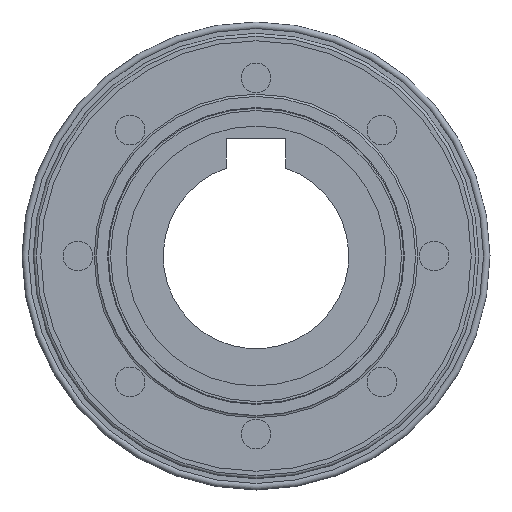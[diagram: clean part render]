
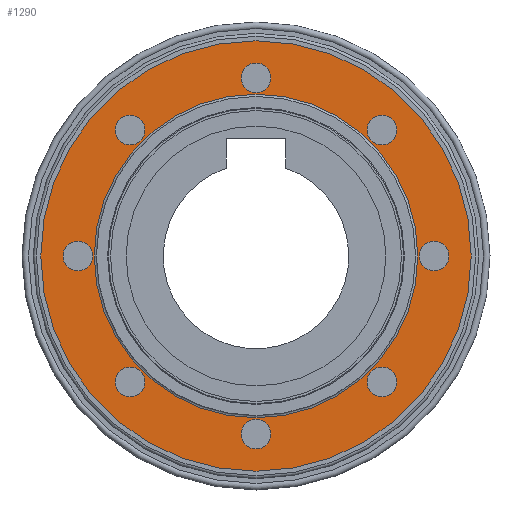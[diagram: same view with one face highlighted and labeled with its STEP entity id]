
A CAD part, left-side view. The second image highlights one B-rep face of the part: STEP entity #1290.
In plain terms, the highlighted planar face has unit normal (-1, 0, 0).
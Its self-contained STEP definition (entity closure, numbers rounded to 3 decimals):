
#24=FACE_BOUND('',#370,.T.);
#25=FACE_BOUND('',#371,.T.);
#26=FACE_BOUND('',#372,.T.);
#27=FACE_BOUND('',#373,.T.);
#28=FACE_BOUND('',#374,.T.);
#29=FACE_BOUND('',#375,.T.);
#30=FACE_BOUND('',#376,.T.);
#31=FACE_BOUND('',#377,.T.);
#32=FACE_BOUND('',#378,.T.);
#61=PLANE('',#1502);
#287=FACE_OUTER_BOUND('',#369,.T.);
#369=EDGE_LOOP('',(#1111,#1112));
#370=EDGE_LOOP('',(#1113,#1114));
#371=EDGE_LOOP('',(#1115,#1116));
#372=EDGE_LOOP('',(#1117,#1118));
#373=EDGE_LOOP('',(#1119,#1120));
#374=EDGE_LOOP('',(#1121,#1122));
#375=EDGE_LOOP('',(#1123,#1124));
#376=EDGE_LOOP('',(#1125,#1126));
#377=EDGE_LOOP('',(#1127,#1128));
#378=EDGE_LOOP('',(#1129,#1130));
#426=CIRCLE('',#1356,2.);
#429=CIRCLE('',#1359,2.);
#430=CIRCLE('',#1361,2.);
#433=CIRCLE('',#1364,2.);
#434=CIRCLE('',#1366,2.);
#437=CIRCLE('',#1369,2.);
#438=CIRCLE('',#1371,2.);
#441=CIRCLE('',#1374,2.);
#442=CIRCLE('',#1376,2.);
#445=CIRCLE('',#1379,2.);
#446=CIRCLE('',#1381,2.);
#449=CIRCLE('',#1384,2.);
#450=CIRCLE('',#1386,2.);
#453=CIRCLE('',#1389,2.);
#454=CIRCLE('',#1391,2.);
#457=CIRCLE('',#1394,2.);
#492=CIRCLE('',#1439,21.8);
#493=CIRCLE('',#1440,21.8);
#495=CIRCLE('',#1443,29.);
#496=CIRCLE('',#1444,29.);
#549=VERTEX_POINT('',#2025);
#550=VERTEX_POINT('',#2026);
#553=VERTEX_POINT('',#2035);
#554=VERTEX_POINT('',#2036);
#557=VERTEX_POINT('',#2045);
#558=VERTEX_POINT('',#2046);
#561=VERTEX_POINT('',#2055);
#562=VERTEX_POINT('',#2056);
#565=VERTEX_POINT('',#2065);
#566=VERTEX_POINT('',#2066);
#569=VERTEX_POINT('',#2075);
#570=VERTEX_POINT('',#2076);
#573=VERTEX_POINT('',#2085);
#574=VERTEX_POINT('',#2086);
#577=VERTEX_POINT('',#2095);
#578=VERTEX_POINT('',#2096);
#615=VERTEX_POINT('',#2229);
#616=VERTEX_POINT('',#2231);
#619=VERTEX_POINT('',#2238);
#620=VERTEX_POINT('',#2240);
#695=EDGE_CURVE('',#549,#550,#426,.T.);
#699=EDGE_CURVE('',#550,#549,#429,.T.);
#700=EDGE_CURVE('',#553,#554,#430,.T.);
#704=EDGE_CURVE('',#554,#553,#433,.T.);
#705=EDGE_CURVE('',#557,#558,#434,.T.);
#709=EDGE_CURVE('',#558,#557,#437,.T.);
#710=EDGE_CURVE('',#561,#562,#438,.T.);
#714=EDGE_CURVE('',#562,#561,#441,.T.);
#715=EDGE_CURVE('',#565,#566,#442,.T.);
#719=EDGE_CURVE('',#566,#565,#445,.T.);
#720=EDGE_CURVE('',#569,#570,#446,.T.);
#724=EDGE_CURVE('',#570,#569,#449,.T.);
#725=EDGE_CURVE('',#573,#574,#450,.T.);
#729=EDGE_CURVE('',#574,#573,#453,.T.);
#730=EDGE_CURVE('',#577,#578,#454,.T.);
#734=EDGE_CURVE('',#578,#577,#457,.T.);
#779=EDGE_CURVE('',#615,#616,#492,.T.);
#780=EDGE_CURVE('',#616,#615,#493,.T.);
#783=EDGE_CURVE('',#620,#619,#495,.T.);
#784=EDGE_CURVE('',#619,#620,#496,.T.);
#1111=ORIENTED_EDGE('',*,*,#783,.T.);
#1112=ORIENTED_EDGE('',*,*,#784,.T.);
#1113=ORIENTED_EDGE('',*,*,#695,.F.);
#1114=ORIENTED_EDGE('',*,*,#699,.F.);
#1115=ORIENTED_EDGE('',*,*,#700,.F.);
#1116=ORIENTED_EDGE('',*,*,#704,.F.);
#1117=ORIENTED_EDGE('',*,*,#705,.F.);
#1118=ORIENTED_EDGE('',*,*,#709,.F.);
#1119=ORIENTED_EDGE('',*,*,#710,.F.);
#1120=ORIENTED_EDGE('',*,*,#714,.F.);
#1121=ORIENTED_EDGE('',*,*,#715,.F.);
#1122=ORIENTED_EDGE('',*,*,#719,.F.);
#1123=ORIENTED_EDGE('',*,*,#720,.F.);
#1124=ORIENTED_EDGE('',*,*,#724,.F.);
#1125=ORIENTED_EDGE('',*,*,#725,.F.);
#1126=ORIENTED_EDGE('',*,*,#729,.F.);
#1127=ORIENTED_EDGE('',*,*,#730,.F.);
#1128=ORIENTED_EDGE('',*,*,#734,.F.);
#1129=ORIENTED_EDGE('',*,*,#780,.F.);
#1130=ORIENTED_EDGE('',*,*,#779,.F.);
#1290=ADVANCED_FACE('',(#287,#24,#25,#26,#27,#28,#29,#30,#31,#32),#61,.F.);
#1356=AXIS2_PLACEMENT_3D('',#2027,#1578,#1579);
#1359=AXIS2_PLACEMENT_3D('',#2033,#1585,#1586);
#1361=AXIS2_PLACEMENT_3D('',#2037,#1589,#1590);
#1364=AXIS2_PLACEMENT_3D('',#2043,#1596,#1597);
#1366=AXIS2_PLACEMENT_3D('',#2047,#1600,#1601);
#1369=AXIS2_PLACEMENT_3D('',#2053,#1607,#1608);
#1371=AXIS2_PLACEMENT_3D('',#2057,#1611,#1612);
#1374=AXIS2_PLACEMENT_3D('',#2063,#1618,#1619);
#1376=AXIS2_PLACEMENT_3D('',#2067,#1622,#1623);
#1379=AXIS2_PLACEMENT_3D('',#2073,#1629,#1630);
#1381=AXIS2_PLACEMENT_3D('',#2077,#1633,#1634);
#1384=AXIS2_PLACEMENT_3D('',#2083,#1640,#1641);
#1386=AXIS2_PLACEMENT_3D('',#2087,#1644,#1645);
#1389=AXIS2_PLACEMENT_3D('',#2093,#1651,#1652);
#1391=AXIS2_PLACEMENT_3D('',#2097,#1655,#1656);
#1394=AXIS2_PLACEMENT_3D('',#2103,#1662,#1663);
#1439=AXIS2_PLACEMENT_3D('',#2232,#1760,#1761);
#1440=AXIS2_PLACEMENT_3D('',#2233,#1762,#1763);
#1443=AXIS2_PLACEMENT_3D('',#2241,#1769,#1770);
#1444=AXIS2_PLACEMENT_3D('',#2242,#1771,#1772);
#1502=AXIS2_PLACEMENT_3D('',#2394,#1902,#1903);
#1578=DIRECTION('center_axis',(-1.,0.,0.));
#1579=DIRECTION('ref_axis',(0.,1.,0.));
#1585=DIRECTION('center_axis',(-1.,0.,0.));
#1586=DIRECTION('ref_axis',(0.,1.,0.));
#1589=DIRECTION('center_axis',(-1.,0.,0.));
#1590=DIRECTION('ref_axis',(0.,1.,0.));
#1596=DIRECTION('center_axis',(-1.,0.,0.));
#1597=DIRECTION('ref_axis',(0.,1.,0.));
#1600=DIRECTION('center_axis',(-1.,0.,0.));
#1601=DIRECTION('ref_axis',(0.,1.,0.));
#1607=DIRECTION('center_axis',(-1.,0.,0.));
#1608=DIRECTION('ref_axis',(0.,1.,0.));
#1611=DIRECTION('center_axis',(-1.,0.,0.));
#1612=DIRECTION('ref_axis',(0.,1.,0.));
#1618=DIRECTION('center_axis',(-1.,0.,0.));
#1619=DIRECTION('ref_axis',(0.,1.,0.));
#1622=DIRECTION('center_axis',(-1.,0.,0.));
#1623=DIRECTION('ref_axis',(0.,1.,0.));
#1629=DIRECTION('center_axis',(-1.,0.,0.));
#1630=DIRECTION('ref_axis',(0.,1.,0.));
#1633=DIRECTION('center_axis',(-1.,0.,0.));
#1634=DIRECTION('ref_axis',(0.,1.,0.));
#1640=DIRECTION('center_axis',(-1.,0.,0.));
#1641=DIRECTION('ref_axis',(0.,1.,0.));
#1644=DIRECTION('center_axis',(-1.,0.,0.));
#1645=DIRECTION('ref_axis',(0.,1.,0.));
#1651=DIRECTION('center_axis',(-1.,0.,0.));
#1652=DIRECTION('ref_axis',(0.,1.,0.));
#1655=DIRECTION('center_axis',(-1.,0.,0.));
#1656=DIRECTION('ref_axis',(0.,1.,0.));
#1662=DIRECTION('center_axis',(-1.,0.,0.));
#1663=DIRECTION('ref_axis',(0.,1.,0.));
#1760=DIRECTION('center_axis',(-1.,0.,0.));
#1761=DIRECTION('ref_axis',(0.,1.,0.));
#1762=DIRECTION('center_axis',(-1.,0.,0.));
#1763=DIRECTION('ref_axis',(0.,1.,0.));
#1769=DIRECTION('center_axis',(-1.,0.,0.));
#1770=DIRECTION('ref_axis',(0.,1.,0.));
#1771=DIRECTION('center_axis',(-1.,0.,0.));
#1772=DIRECTION('ref_axis',(0.,1.,0.));
#1902=DIRECTION('center_axis',(1.,0.,0.));
#1903=DIRECTION('ref_axis',(0.,0.,-1.));
#2025=CARTESIAN_POINT('',(6.,-14.971,-16.971));
#2026=CARTESIAN_POINT('',(6.,-18.971,-16.971));
#2027=CARTESIAN_POINT('Origin',(6.,-16.971,-16.971));
#2033=CARTESIAN_POINT('Origin',(6.,-16.971,-16.971));
#2035=CARTESIAN_POINT('',(6.,-22.,0.));
#2036=CARTESIAN_POINT('',(6.,-26.,0.));
#2037=CARTESIAN_POINT('Origin',(6.,-24.,0.));
#2043=CARTESIAN_POINT('Origin',(6.,-24.,0.));
#2045=CARTESIAN_POINT('',(6.,-14.971,16.971));
#2046=CARTESIAN_POINT('',(6.,-18.971,16.971));
#2047=CARTESIAN_POINT('Origin',(6.,-16.971,16.971));
#2053=CARTESIAN_POINT('Origin',(6.,-16.971,16.971));
#2055=CARTESIAN_POINT('',(6.,2.,24.));
#2056=CARTESIAN_POINT('',(6.,-2.,24.));
#2057=CARTESIAN_POINT('Origin',(6.,0.,24.));
#2063=CARTESIAN_POINT('Origin',(6.,0.,24.));
#2065=CARTESIAN_POINT('',(6.,18.971,16.971));
#2066=CARTESIAN_POINT('',(6.,14.971,16.971));
#2067=CARTESIAN_POINT('Origin',(6.,16.971,16.971));
#2073=CARTESIAN_POINT('Origin',(6.,16.971,16.971));
#2075=CARTESIAN_POINT('',(6.,26.,0.));
#2076=CARTESIAN_POINT('',(6.,22.,0.));
#2077=CARTESIAN_POINT('Origin',(6.,24.,0.));
#2083=CARTESIAN_POINT('Origin',(6.,24.,0.));
#2085=CARTESIAN_POINT('',(6.,18.971,-16.971));
#2086=CARTESIAN_POINT('',(6.,14.971,-16.971));
#2087=CARTESIAN_POINT('Origin',(6.,16.971,-16.971));
#2093=CARTESIAN_POINT('Origin',(6.,16.971,-16.971));
#2095=CARTESIAN_POINT('',(6.,2.,-24.));
#2096=CARTESIAN_POINT('',(6.,-2.,-24.));
#2097=CARTESIAN_POINT('Origin',(6.,0.,-24.));
#2103=CARTESIAN_POINT('Origin',(6.,0.,-24.));
#2229=CARTESIAN_POINT('',(6.,-21.8,0.));
#2231=CARTESIAN_POINT('',(6.,21.8,0.));
#2232=CARTESIAN_POINT('Origin',(6.,0.,0.));
#2233=CARTESIAN_POINT('Origin',(6.,0.,0.));
#2238=CARTESIAN_POINT('',(6.,-29.,0.));
#2240=CARTESIAN_POINT('',(6.,29.,0.));
#2241=CARTESIAN_POINT('Origin',(6.,0.,0.));
#2242=CARTESIAN_POINT('Origin',(6.,0.,0.));
#2394=CARTESIAN_POINT('Origin',(6.,0.,-29.));
